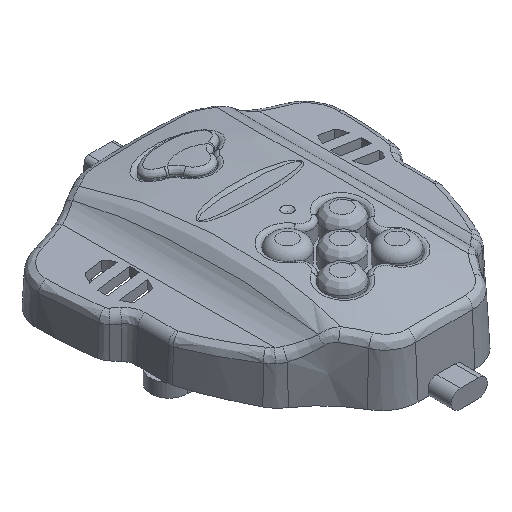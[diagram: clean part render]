
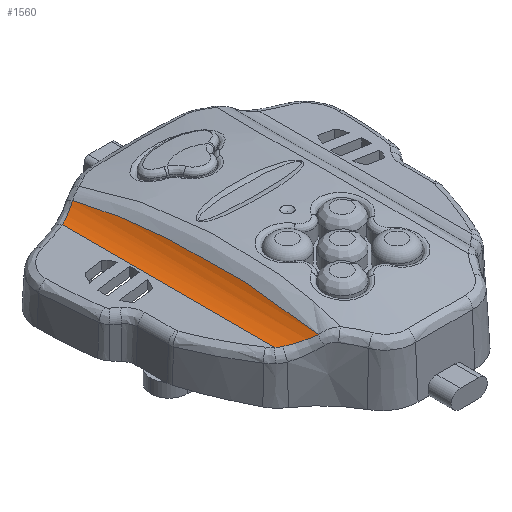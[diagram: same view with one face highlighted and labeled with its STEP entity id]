
A CAD part, isometric view. The second image highlights one B-rep face of the part: STEP entity #1560.
In plain terms, the highlighted cylindrical face has radius 8.906 mm (diameter 17.812 mm), a partial arc.
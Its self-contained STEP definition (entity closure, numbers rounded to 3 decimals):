
#194=B_SPLINE_CURVE_WITH_KNOTS('',3,(#12983,#12984,#12985,#12986,#12987,
#12988,#12989,#12990,#12991,#12992,#12993,#12994,#12995,#12996,#12997,#12998,
#12999,#13000,#13001,#13002,#13003,#13004,#13005,#13006,#13007),
 .UNSPECIFIED.,.F.,.F.,(4,2,2,2,2,2,2,2,2,1,2,2,4),(0.,0.125,0.188,0.219,
0.25,0.375,0.5,0.625,0.688,0.719,0.734,
0.75,1.),.UNSPECIFIED.);
#274=B_SPLINE_CURVE_WITH_KNOTS('',3,(#14776,#14777,#14778,#14779),
 .UNSPECIFIED.,.F.,.F.,(4,4),(0.,1.),.UNSPECIFIED.);
#275=B_SPLINE_CURVE_WITH_KNOTS('',3,(#14781,#14782,#14783,#14784,#14785,
#14786,#14787,#14788,#14789,#14790),.UNSPECIFIED.,.F.,.F.,(4,2,2,2,4),(0.,
0.25,0.375,0.5,1.),.UNSPECIFIED.);
#276=B_SPLINE_CURVE_WITH_KNOTS('',3,(#14791,#14792,#14793,#14794,#14795,
#14796,#14797,#14798,#14799,#14800,#14801,#14802,#14803,#14804),
 .UNSPECIFIED.,.F.,.F.,(4,2,2,2,2,2,4),(0.,0.25,0.375,
0.437,0.469,0.5,1.),.UNSPECIFIED.);
#992=CYLINDRICAL_SURFACE('',#8295,8.906);
#1560=ADVANCED_FACE('',(#2119),#992,.F.);
#2119=FACE_OUTER_BOUND('',#2618,.T.);
#2618=EDGE_LOOP('',(#3886,#3887,#3888,#3889,#3890));
#3886=ORIENTED_EDGE('',*,*,#6531,.T.);
#3887=ORIENTED_EDGE('',*,*,#6532,.T.);
#3888=ORIENTED_EDGE('',*,*,#6424,.T.);
#3889=ORIENTED_EDGE('',*,*,#6533,.T.);
#3890=ORIENTED_EDGE('',*,*,#6191,.T.);
#5368=VERTEX_POINT('',#12333);
#5369=VERTEX_POINT('',#12335);
#5591=VERTEX_POINT('',#13008);
#5592=VERTEX_POINT('',#13009);
#5675=VERTEX_POINT('',#14780);
#6191=EDGE_CURVE('',#5369,#5368,#7142,.T.);
#6424=EDGE_CURVE('',#5591,#5592,#194,.T.);
#6531=EDGE_CURVE('',#5368,#5675,#274,.T.);
#6532=EDGE_CURVE('',#5675,#5591,#275,.T.);
#6533=EDGE_CURVE('',#5592,#5369,#276,.T.);
#7142=LINE('',#12334,#7583);
#7583=VECTOR('',#9306,1.);
#8295=AXIS2_PLACEMENT_3D('',#14805,#9708,#9709);
#9306=DIRECTION('',(0.,-1.,0.));
#9708=DIRECTION('',(0.,1.,0.));
#9709=DIRECTION('',(0.,0.,-1.));
#12333=CARTESIAN_POINT('',(-21.552,-18.794,10.));
#12334=CARTESIAN_POINT('',(-21.552,-46.,10.));
#12335=CARTESIAN_POINT('',(-21.552,27.808,10.));
#12983=CARTESIAN_POINT('',(-16.757,-23.532,12.391));
#12984=CARTESIAN_POINT('',(-16.555,-21.509,12.586));
#12985=CARTESIAN_POINT('',(-16.39,-19.391,12.763));
#12986=CARTESIAN_POINT('',(-16.19,-16.072,12.991));
#12987=CARTESIAN_POINT('',(-16.131,-14.941,13.061));
#12988=CARTESIAN_POINT('',(-16.053,-13.21,13.155));
#12989=CARTESIAN_POINT('',(-16.029,-12.627,13.185));
#12990=CARTESIAN_POINT('',(-15.984,-11.449,13.24));
#12991=CARTESIAN_POINT('',(-15.962,-10.802,13.269));
#12992=CARTESIAN_POINT('',(-15.875,-8.06,13.379));
#12993=CARTESIAN_POINT('',(-15.829,-5.851,13.44));
#12994=CARTESIAN_POINT('',(-15.782,-1.406,13.503));
#12995=CARTESIAN_POINT('',(-15.78,0.775,13.506));
#12996=CARTESIAN_POINT('',(-15.822,5.392,13.45));
#12997=CARTESIAN_POINT('',(-15.865,7.656,13.393));
#12998=CARTESIAN_POINT('',(-15.966,10.985,13.263));
#12999=CARTESIAN_POINT('',(-16.006,12.083,13.213));
#13000=CARTESIAN_POINT('',(-16.076,13.714,13.128));
#13001=CARTESIAN_POINT('',(-16.113,14.525,13.083));
#13002=CARTESIAN_POINT('',(-16.154,15.33,13.034));
#13003=CARTESIAN_POINT('',(-16.182,15.866,13.001));
#13004=CARTESIAN_POINT('',(-16.194,16.081,12.987));
#13005=CARTESIAN_POINT('',(-16.5,21.483,12.634));
#13006=CARTESIAN_POINT('',(-16.923,25.882,12.189));
#13007=CARTESIAN_POINT('',(-17.544,29.595,11.715));
#13008=CARTESIAN_POINT('',(-16.757,-23.532,12.391));
#13009=CARTESIAN_POINT('',(-17.544,29.595,11.715));
#14776=CARTESIAN_POINT('',(-21.552,-18.794,10.));
#14777=CARTESIAN_POINT('',(-21.297,-19.134,10.04));
#14778=CARTESIAN_POINT('',(-21.013,-19.428,10.097));
#14779=CARTESIAN_POINT('',(-20.703,-19.675,10.177));
#14780=CARTESIAN_POINT('',(-20.703,-19.675,10.177));
#14781=CARTESIAN_POINT('',(-20.703,-19.675,10.177));
#14782=CARTESIAN_POINT('',(-20.389,-19.925,10.259));
#14783=CARTESIAN_POINT('',(-20.05,-20.208,10.365));
#14784=CARTESIAN_POINT('',(-19.512,-20.683,10.576));
#14785=CARTESIAN_POINT('',(-19.328,-20.849,10.655));
#14786=CARTESIAN_POINT('',(-18.953,-21.2,10.832));
#14787=CARTESIAN_POINT('',(-18.731,-21.412,10.948));
#14788=CARTESIAN_POINT('',(-17.91,-22.224,11.412));
#14789=CARTESIAN_POINT('',(-17.3,-22.876,11.867));
#14790=CARTESIAN_POINT('',(-16.757,-23.532,12.391));
#14791=CARTESIAN_POINT('',(-17.544,29.595,11.715));
#14792=CARTESIAN_POINT('',(-17.552,29.591,11.709));
#14793=CARTESIAN_POINT('',(-17.699,29.513,11.59));
#14794=CARTESIAN_POINT('',(-18.155,29.286,11.286));
#14795=CARTESIAN_POINT('',(-18.348,29.192,11.164));
#14796=CARTESIAN_POINT('',(-18.703,29.023,10.964));
#14797=CARTESIAN_POINT('',(-18.833,28.962,10.895));
#14798=CARTESIAN_POINT('',(-19.046,28.864,10.789));
#14799=CARTESIAN_POINT('',(-19.119,28.83,10.753));
#14800=CARTESIAN_POINT('',(-19.273,28.76,10.682));
#14801=CARTESIAN_POINT('',(-19.386,28.71,10.632));
#14802=CARTESIAN_POINT('',(-20.24,28.325,10.266));
#14803=CARTESIAN_POINT('',(-20.962,28.032,10.093));
#14804=CARTESIAN_POINT('',(-21.552,27.808,10.));
#14805=CARTESIAN_POINT('',(-22.945,-46.,18.797));
